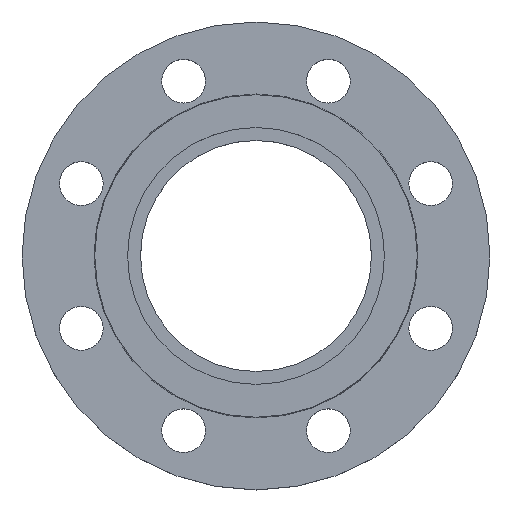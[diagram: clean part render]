
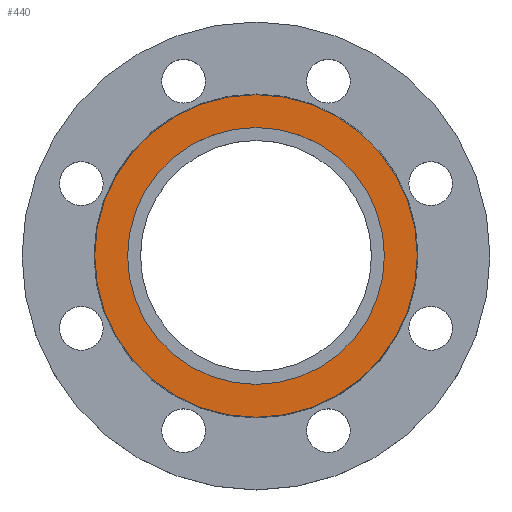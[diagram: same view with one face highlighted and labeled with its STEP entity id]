
A CAD part, top view. The second image highlights one B-rep face of the part: STEP entity #440.
In plain terms, the highlighted planar face has unit normal (0, 0, 1).
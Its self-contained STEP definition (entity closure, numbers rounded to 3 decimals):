
#12 = CARTESIAN_POINT ( 'NONE',  ( -81., 0., 0. ) ) ;
#54 = DIRECTION ( 'NONE',  ( -1., 0., 0. ) ) ;
#64 = CIRCLE ( 'NONE', #489, 64.5 ) ;
#93 = CARTESIAN_POINT ( 'NONE',  ( 81., 0., 0. ) ) ;
#111 = AXIS2_PLACEMENT_3D ( 'NONE', #246, #199, #206 ) ;
#199 = DIRECTION ( 'NONE',  ( 0., 0., 1. ) ) ;
#206 = DIRECTION ( 'NONE',  ( 1., 0., 0. ) ) ;
#225 = FACE_OUTER_BOUND ( 'NONE', #861, .T. ) ;
#230 = PLANE ( 'NONE',  #111 ) ;
#233 = FACE_BOUND ( 'NONE', #789, .T. ) ;
#243 = EDGE_CURVE ( 'NONE', #951, #724, #64, .T. ) ;
#246 = CARTESIAN_POINT ( 'NONE',  ( 0., 0., 0. ) ) ;
#316 = CARTESIAN_POINT ( 'NONE',  ( 0., 0., 0. ) ) ;
#317 = DIRECTION ( 'NONE',  ( 0., 0., -1. ) ) ;
#319 = DIRECTION ( 'NONE',  ( -1., 0., 0. ) ) ;
#343 = CIRCLE ( 'NONE', #596, 64.5 ) ;
#364 = EDGE_CURVE ( 'NONE', #724, #951, #343, .T. ) ;
#406 = CARTESIAN_POINT ( 'NONE',  ( 0., 0., 0. ) ) ;
#407 = DIRECTION ( 'NONE',  ( 0., 0., -1. ) ) ;
#408 = DIRECTION ( 'NONE',  ( -1., 0., 0. ) ) ;
#417 = CIRCLE ( 'NONE', #436, 81. ) ;
#434 = CARTESIAN_POINT ( 'NONE',  ( 64.5, 0., 0. ) ) ;
#436 = AXIS2_PLACEMENT_3D ( 'NONE', #466, #638, #894 ) ;
#440 = ADVANCED_FACE ( 'NONE', ( #225, #233 ), #230, .T. ) ;
#453 = AXIS2_PLACEMENT_3D ( 'NONE', #528, #689, #54 ) ;
#457 = CIRCLE ( 'NONE', #453, 81. ) ;
#466 = CARTESIAN_POINT ( 'NONE',  ( 0., 0., 0. ) ) ;
#489 = AXIS2_PLACEMENT_3D ( 'NONE', #316, #317, #319 ) ;
#528 = CARTESIAN_POINT ( 'NONE',  ( 0., 0., 0. ) ) ;
#596 = AXIS2_PLACEMENT_3D ( 'NONE', #406, #407, #408 ) ;
#638 = DIRECTION ( 'NONE',  ( 0., 0., -1. ) ) ;
#641 = VERTEX_POINT ( 'NONE', #12 ) ;
#675 = EDGE_CURVE ( 'NONE', #641, #734, #457, .T. ) ;
#688 = EDGE_CURVE ( 'NONE', #734, #641, #417, .T. ) ;
#689 = DIRECTION ( 'NONE',  ( 0., 0., -1. ) ) ;
#724 = VERTEX_POINT ( 'NONE', #740 ) ;
#734 = VERTEX_POINT ( 'NONE', #93 ) ;
#740 = CARTESIAN_POINT ( 'NONE',  ( -64.5, 0., 0. ) ) ;
#789 = EDGE_LOOP ( 'NONE', ( #841, #842 ) ) ;
#839 = ORIENTED_EDGE ( 'NONE', *, *, #675, .F. ) ;
#840 = ORIENTED_EDGE ( 'NONE', *, *, #688, .F. ) ;
#841 = ORIENTED_EDGE ( 'NONE', *, *, #364, .T. ) ;
#842 = ORIENTED_EDGE ( 'NONE', *, *, #243, .T. ) ;
#861 = EDGE_LOOP ( 'NONE', ( #839, #840 ) ) ;
#894 = DIRECTION ( 'NONE',  ( -1., 0., 0. ) ) ;
#951 = VERTEX_POINT ( 'NONE', #434 ) ;
